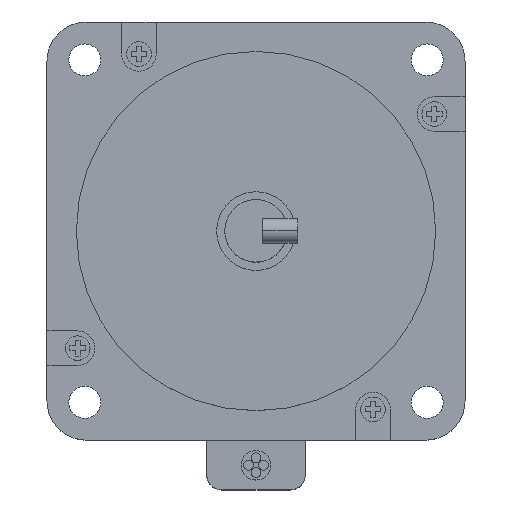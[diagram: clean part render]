
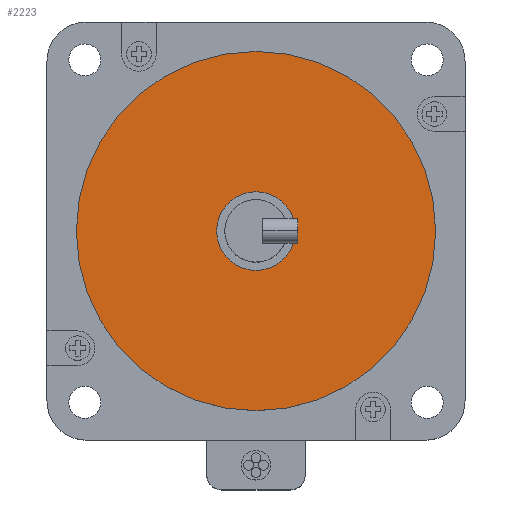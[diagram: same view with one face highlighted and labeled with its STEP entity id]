
A CAD part, top view. The second image highlights one B-rep face of the part: STEP entity #2223.
In plain terms, the highlighted planar face has unit normal (0, 0, 1).
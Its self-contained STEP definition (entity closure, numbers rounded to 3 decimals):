
#160 = AXIS2_PLACEMENT_3D ( 'NONE', #4321, #2291, #189 ) ;
#186 = DIRECTION ( 'NONE',  ( 0., 0., -1. ) ) ;
#189 = DIRECTION ( 'NONE',  ( -1., 0., 0. ) ) ;
#816 = AXIS2_PLACEMENT_3D ( 'NONE', #7797, #186, #8556 ) ;
#1346 = AXIS2_PLACEMENT_3D ( 'NONE', #3160, #5216, #7918 ) ;
#1542 = EDGE_LOOP ( 'NONE', ( #1553, #5179 ) ) ;
#1553 = ORIENTED_EDGE ( 'NONE', *, *, #6794, .T. ) ;
#1737 = FACE_BOUND ( 'NONE', #8202, .T. ) ;
#2223 = ADVANCED_FACE ( 'NONE', ( #3788, #1737 ), #6880, .T. ) ;
#2291 = DIRECTION ( 'NONE',  ( 0., 0., 1. ) ) ;
#2488 = DIRECTION ( 'NONE',  ( -1., 0., 0. ) ) ;
#2598 = VERTEX_POINT ( 'NONE', #2749 ) ;
#2611 = CIRCLE ( 'NONE', #1346, 8. ) ;
#2694 = CIRCLE ( 'NONE', #160, 36.513 ) ;
#2749 = CARTESIAN_POINT ( 'NONE',  ( 36.513, 0., 2. ) ) ;
#3160 = CARTESIAN_POINT ( 'NONE',  ( 0., 0., 2. ) ) ;
#3193 = CARTESIAN_POINT ( 'NONE',  ( 8., 0., 2. ) ) ;
#3448 = ORIENTED_EDGE ( 'NONE', *, *, #5052, .T. ) ;
#3788 = FACE_OUTER_BOUND ( 'NONE', #1542, .T. ) ;
#3899 = EDGE_CURVE ( 'NONE', #4173, #7946, #4270, .T. ) ;
#4173 = VERTEX_POINT ( 'NONE', #3193 ) ;
#4270 = CIRCLE ( 'NONE', #816, 8. ) ;
#4321 = CARTESIAN_POINT ( 'NONE',  ( 0., 0., 2. ) ) ;
#4676 = CARTESIAN_POINT ( 'NONE',  ( 0., 0., 2. ) ) ;
#4775 = CARTESIAN_POINT ( 'NONE',  ( 0., 0., 2. ) ) ;
#5052 = EDGE_CURVE ( 'NONE', #7946, #4173, #2611, .T. ) ;
#5127 = ORIENTED_EDGE ( 'NONE', *, *, #3899, .T. ) ;
#5179 = ORIENTED_EDGE ( 'NONE', *, *, #8592, .T. ) ;
#5216 = DIRECTION ( 'NONE',  ( 0., 0., -1. ) ) ;
#5682 = DIRECTION ( 'NONE',  ( 1., 0., 0. ) ) ;
#5699 = CIRCLE ( 'NONE', #8686, 36.513 ) ;
#6062 = DIRECTION ( 'NONE',  ( 0., 0., 1. ) ) ;
#6539 = AXIS2_PLACEMENT_3D ( 'NONE', #4775, #7714, #5682 ) ;
#6794 = EDGE_CURVE ( 'NONE', #7779, #2598, #2694, .T. ) ;
#6880 = PLANE ( 'NONE',  #6539 ) ;
#6887 = CARTESIAN_POINT ( 'NONE',  ( -36.513, 0., 2. ) ) ;
#7714 = DIRECTION ( 'NONE',  ( 0., 0., 1. ) ) ;
#7779 = VERTEX_POINT ( 'NONE', #6887 ) ;
#7797 = CARTESIAN_POINT ( 'NONE',  ( 0., 0., 2. ) ) ;
#7918 = DIRECTION ( 'NONE',  ( -1., 0., 0. ) ) ;
#7946 = VERTEX_POINT ( 'NONE', #8503 ) ;
#8202 = EDGE_LOOP ( 'NONE', ( #3448, #5127 ) ) ;
#8503 = CARTESIAN_POINT ( 'NONE',  ( -8., 0., 2. ) ) ;
#8556 = DIRECTION ( 'NONE',  ( -1., 0., 0. ) ) ;
#8592 = EDGE_CURVE ( 'NONE', #2598, #7779, #5699, .T. ) ;
#8686 = AXIS2_PLACEMENT_3D ( 'NONE', #4676, #6062, #2488 ) ;
